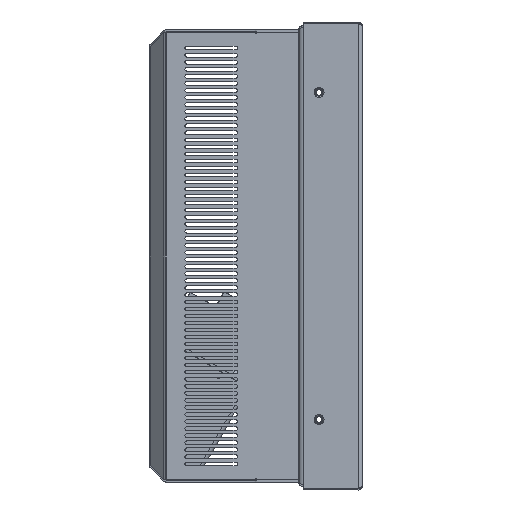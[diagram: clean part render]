
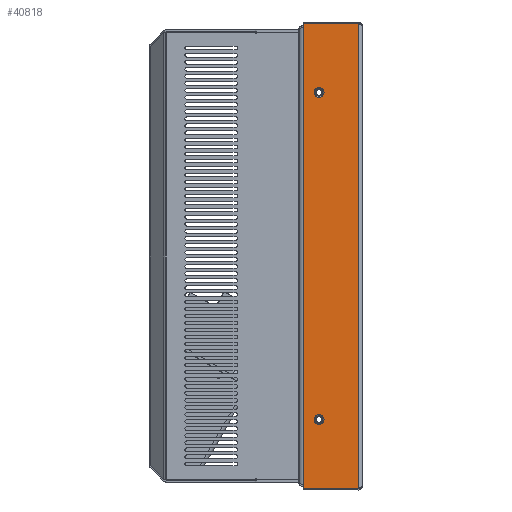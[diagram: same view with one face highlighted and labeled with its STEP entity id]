
A CAD part, left-side view. The second image highlights one B-rep face of the part: STEP entity #40818.
In plain terms, the highlighted planar face has unit normal (-1, 0, 0).
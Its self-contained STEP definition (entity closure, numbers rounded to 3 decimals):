
#2656=LINE('',#59686,#6469);
#2657=LINE('',#59688,#6470);
#2658=LINE('',#59690,#6471);
#2659=LINE('',#59691,#6472);
#6469=VECTOR('',#47624,31.3);
#6470=VECTOR('',#47625,264.3);
#6471=VECTOR('',#47626,31.3);
#6472=VECTOR('',#47627,264.3);
#10050=PLANE('',#43081);
#11165=FACE_BOUND('',#14354,.T.);
#11166=FACE_BOUND('',#14355,.T.);
#12108=FACE_OUTER_BOUND('',#14353,.T.);
#14353=EDGE_LOOP('',(#29286,#29287,#29288,#29289));
#14354=EDGE_LOOP('',(#29290));
#14355=EDGE_LOOP('',(#29291));
#17160=CIRCLE('',#43082,2.8);
#17161=CIRCLE('',#43083,2.8);
#19131=VERTEX_POINT('',#59684);
#19132=VERTEX_POINT('',#59685);
#19133=VERTEX_POINT('',#59687);
#19134=VERTEX_POINT('',#59689);
#19135=VERTEX_POINT('',#59692);
#19136=VERTEX_POINT('',#59694);
#23079=EDGE_CURVE('',#19131,#19132,#2656,.T.);
#23080=EDGE_CURVE('',#19132,#19133,#2657,.T.);
#23081=EDGE_CURVE('',#19134,#19133,#2658,.T.);
#23082=EDGE_CURVE('',#19131,#19134,#2659,.T.);
#23083=EDGE_CURVE('',#19135,#19135,#17160,.T.);
#23084=EDGE_CURVE('',#19136,#19136,#17161,.T.);
#29286=ORIENTED_EDGE('',*,*,#23079,.T.);
#29287=ORIENTED_EDGE('',*,*,#23080,.T.);
#29288=ORIENTED_EDGE('',*,*,#23081,.F.);
#29289=ORIENTED_EDGE('',*,*,#23082,.F.);
#29290=ORIENTED_EDGE('',*,*,#23083,.T.);
#29291=ORIENTED_EDGE('',*,*,#23084,.T.);
#40818=ADVANCED_FACE('',(#12108,#11165,#11166),#10050,.F.);
#43081=AXIS2_PLACEMENT_3D('',#59683,#47622,#47623);
#43082=AXIS2_PLACEMENT_3D('',#59693,#47628,#47629);
#43083=AXIS2_PLACEMENT_3D('',#59695,#47630,#47631);
#47622=DIRECTION('center_axis',(1.,0.,0.));
#47623=DIRECTION('ref_axis',(0.,0.,-1.));
#47624=DIRECTION('',(0.,1.,0.));
#47625=DIRECTION('',(0.,0.,-1.));
#47626=DIRECTION('',(0.,1.,0.));
#47627=DIRECTION('',(0.,0.,-1.));
#47628=DIRECTION('center_axis',(1.,0.,0.));
#47629=DIRECTION('ref_axis',(0.,0.,
1.));
#47630=DIRECTION('center_axis',(1.,0.,0.));
#47631=DIRECTION('ref_axis',(0.,0.,
1.));
#59683=CARTESIAN_POINT('Origin',(-201.,-278.95,-571.806));
#59684=CARTESIAN_POINT('',(-201.,-294.6,-467.85));
#59685=CARTESIAN_POINT('',(-201.,-263.3,-467.85));
#59686=CARTESIAN_POINT('',(-201.,-294.6,-467.85));
#59687=CARTESIAN_POINT('',(-201.,-263.3,-732.15));
#59688=CARTESIAN_POINT('',(-201.,-263.3,-664.2));
#59689=CARTESIAN_POINT('',(-201.,-294.6,-732.15));
#59690=CARTESIAN_POINT('',(-201.,-294.6,-732.15));
#59691=CARTESIAN_POINT('',(-201.,-294.6,-1642.145));
#59692=CARTESIAN_POINT('',(-201.,-272.3,-504.3));
#59693=CARTESIAN_POINT('Origin',(-201.,-272.3,-507.1));
#59694=CARTESIAN_POINT('',(-201.,-272.3,-690.1));
#59695=CARTESIAN_POINT('Origin',(-201.,-272.3,-692.9));
